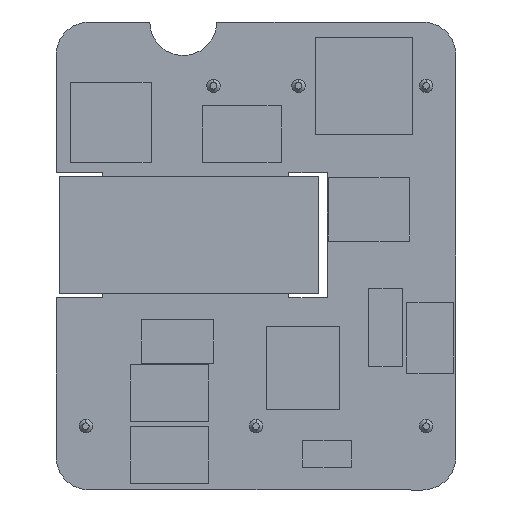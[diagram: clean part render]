
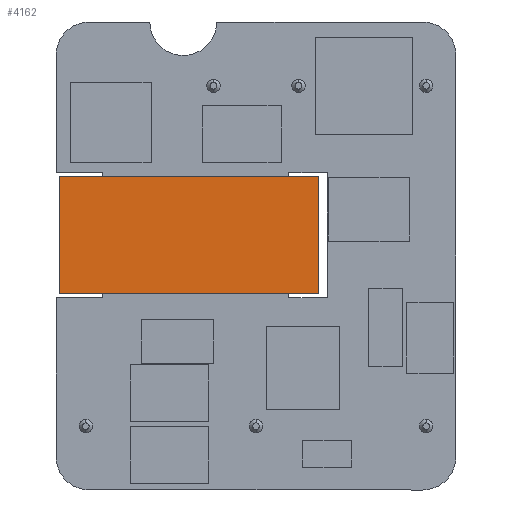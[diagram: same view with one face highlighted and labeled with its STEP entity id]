
A CAD part, front view. The second image highlights one B-rep face of the part: STEP entity #4162.
In plain terms, the highlighted planar face has unit normal (0, -1, 0).
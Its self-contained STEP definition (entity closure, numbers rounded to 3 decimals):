
#52 = EDGE_CURVE ( 'NONE', #4211, #2117, #7612, .T. ) ;
#88 = CARTESIAN_POINT ( 'NONE',  ( 164.707, -3.125, -8.807 ) ) ;
#123 = VERTEX_POINT ( 'NONE', #4341 ) ;
#365 = AXIS2_PLACEMENT_3D ( 'NONE', #88, #4971, #737 ) ;
#737 = DIRECTION ( 'NONE',  ( 0., 0., 1. ) ) ;
#761 = VECTOR ( 'NONE', #5213, 1000. ) ;
#775 = CARTESIAN_POINT ( 'NONE',  ( 164.707, -3.125, -15.807 ) ) ;
#879 = VECTOR ( 'NONE', #4018, 1000. ) ;
#950 = LINE ( 'NONE', #2261, #761 ) ;
#1419 = DIRECTION ( 'NONE',  ( 0., 0., 1. ) ) ;
#1691 = ORIENTED_EDGE ( 'NONE', *, *, #2694, .F. ) ;
#2117 = VERTEX_POINT ( 'NONE', #4780 ) ;
#2261 = CARTESIAN_POINT ( 'NONE',  ( 164.707, -3.125, -8.807 ) ) ;
#2587 = FACE_OUTER_BOUND ( 'NONE', #3259, .T. ) ;
#2694 = EDGE_CURVE ( 'NONE', #7673, #123, #5582, .T. ) ;
#3259 = EDGE_LOOP ( 'NONE', ( #1691, #6215, #5191, #3932 ) ) ;
#3932 = ORIENTED_EDGE ( 'NONE', *, *, #5888, .F. ) ;
#3942 = CARTESIAN_POINT ( 'NONE',  ( 164.707, -3.125, -15.807 ) ) ;
#4018 = DIRECTION ( 'NONE',  ( 0., 0., -1. ) ) ;
#4095 = CARTESIAN_POINT ( 'NONE',  ( 180.207, -3.125, -15.807 ) ) ;
#4162 = ADVANCED_FACE ( 'NONE', ( #2587 ), #4999, .F. ) ;
#4211 = VERTEX_POINT ( 'NONE', #4334 ) ;
#4334 = CARTESIAN_POINT ( 'NONE',  ( 180.207, -3.125, -8.807 ) ) ;
#4341 = CARTESIAN_POINT ( 'NONE',  ( 164.707, -3.125, -8.807 ) ) ;
#4390 = EDGE_CURVE ( 'NONE', #2117, #7673, #6623, .T. ) ;
#4502 = DIRECTION ( 'NONE',  ( -1., 0., 0. ) ) ;
#4679 = CARTESIAN_POINT ( 'NONE',  ( 164.707, -3.125, -15.807 ) ) ;
#4780 = CARTESIAN_POINT ( 'NONE',  ( 180.207, -3.125, -15.807 ) ) ;
#4793 = VECTOR ( 'NONE', #4502, 1000. ) ;
#4971 = DIRECTION ( 'NONE',  ( 0., 1., 0. ) ) ;
#4999 = PLANE ( 'NONE',  #365 ) ;
#5191 = ORIENTED_EDGE ( 'NONE', *, *, #52, .F. ) ;
#5213 = DIRECTION ( 'NONE',  ( 1., 0., 0. ) ) ;
#5582 = LINE ( 'NONE', #775, #7392 ) ;
#5888 = EDGE_CURVE ( 'NONE', #123, #4211, #950, .T. ) ;
#6215 = ORIENTED_EDGE ( 'NONE', *, *, #4390, .F. ) ;
#6623 = LINE ( 'NONE', #3942, #4793 ) ;
#7392 = VECTOR ( 'NONE', #1419, 1000. ) ;
#7612 = LINE ( 'NONE', #4095, #879 ) ;
#7673 = VERTEX_POINT ( 'NONE', #4679 ) ;
